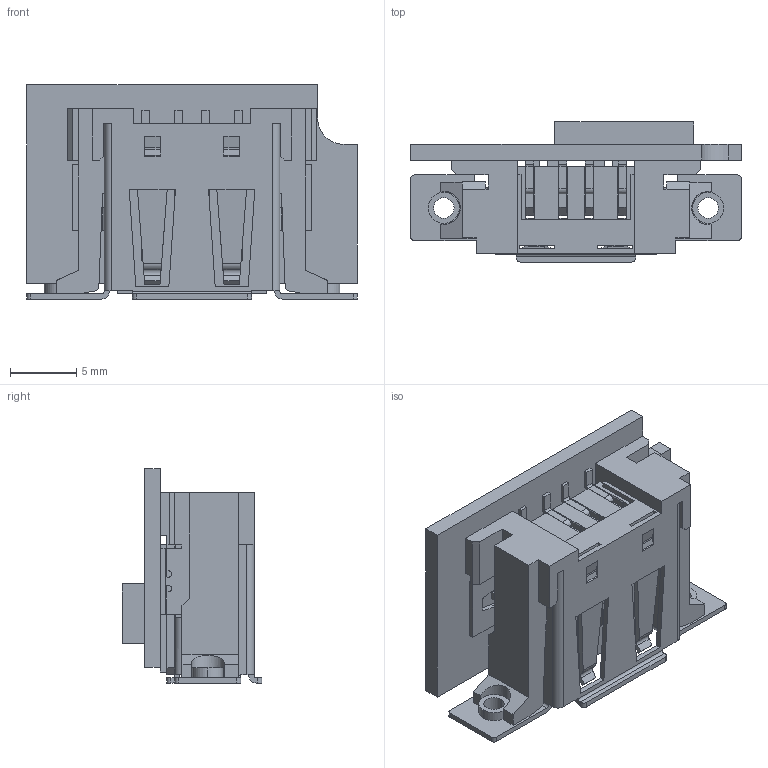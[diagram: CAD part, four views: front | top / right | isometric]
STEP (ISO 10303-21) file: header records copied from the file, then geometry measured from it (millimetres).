
FILE_DESCRIPTION(/* description */ ('VariCAD 2008 1.04 AP-203'),/* implementation_level */ '2;1');
FILE_NAME(/* name */ '0353-00-03',/* time_stamp */ '2008-06-03T11:22:51-06:00',/* author */ (''),/* organization */ (''),/* preprocessor_version */ 'ST-DEVELOPER v10',/* originating_system */ 'VariCAD 2008 1.04; kernel version (20071230)',/* authorisation */ '');
FILE_SCHEMA (('CONFIG_CONTROL_DESIGN'));
Length unit declared in the file: millimetre
Products named in the file (1): Part
Bounding box: 25 x 10.58 x 16.2 mm (x, y, z)
Volume: 1482.9 mm3; surface area: 2777.5 mm2
Topology: 1 solids, 1 shells, 487 faces, 1445 edges, 940 vertices
Faces by surface type: plane 396, cylinder 91
Entity records: 16301 total; most frequent: CARTESIAN_POINT 3012, ORIENTED_EDGE 2890, DIRECTION 2583, EDGE_CURVE 1445, LINE 1249, VECTOR 1249, VERTEX_POINT 940, AXIS2_PLACEMENT_3D 667
